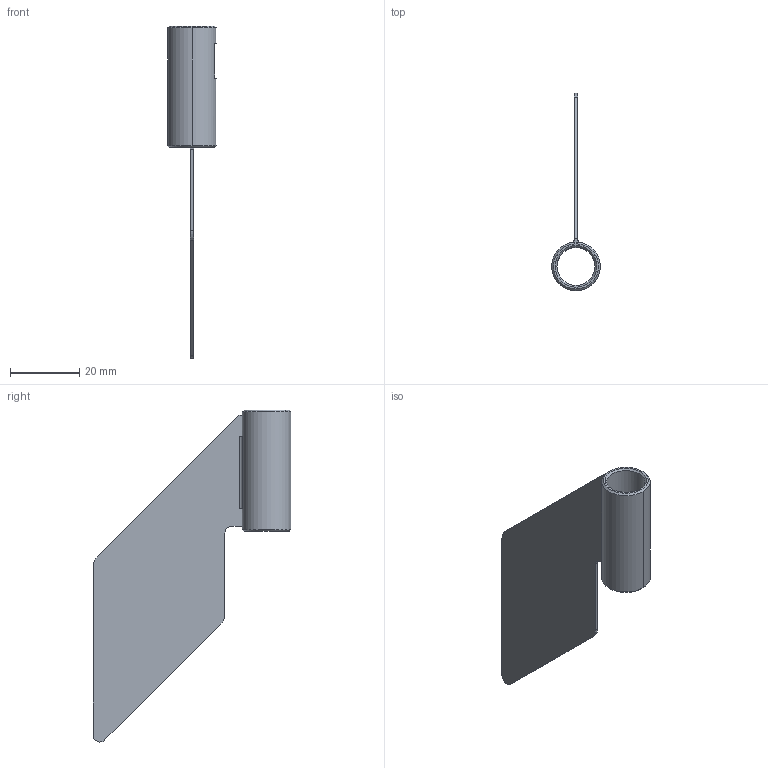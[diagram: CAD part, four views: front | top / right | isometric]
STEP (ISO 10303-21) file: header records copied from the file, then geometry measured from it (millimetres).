
FILE_DESCRIPTION(/* description */ (''),/* implementation_level */ '2;1');
FILE_NAME(/* name */ 'AC1-INOX.stp',/* time_stamp */ '2024-03-22T10:32:52+01:00',/* author */ ('filippo.guidetti'),/* organization */ (''),/* preprocessor_version */ 'ST-DEVELOPER v20',/* originating_system */ 'Autodesk Inventor 2024',/* authorisation */ '');
FILE_SCHEMA (('AUTOMOTIVE_DESIGN { 1 0 10303 214 3 1 1 }'));
Length unit declared in the file: millimetre
Products named in the file (1): AC1-INOX
Bounding box: 14 x 57 x 95.67 mm (x, y, z)
Volume: 4241.1 mm3; surface area: 7487.7 mm2
Topology: 1 solids, 1 shells, 36 faces, 100 edges, 64 vertices
Faces by surface type: plane 22, cylinder 10, cone 4
Full cylindrical faces by diameter (mm): 5.5 x1, 11 x1
Entity records: 1308 total; most frequent: CARTESIAN_POINT 246, DIRECTION 202, ORIENTED_EDGE 200, EDGE_CURVE 100, AXIS2_PLACEMENT_3D 70, VERTEX_POINT 64, LINE 62, VECTOR 62
